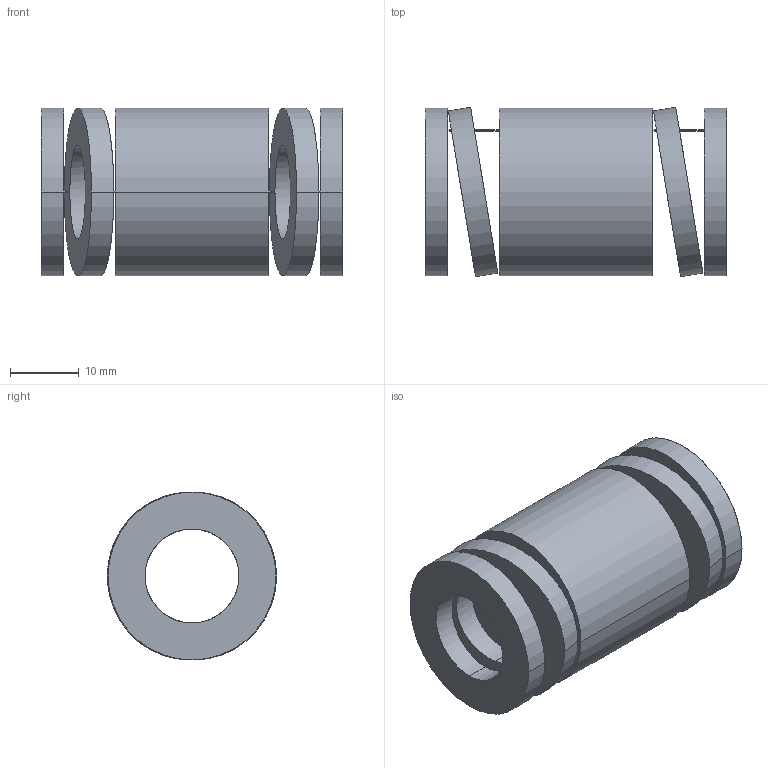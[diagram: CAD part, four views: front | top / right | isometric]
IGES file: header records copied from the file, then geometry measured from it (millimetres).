
Start section: START RECORD GO HERE.
Global section: file name: 392-B25-044.igs; native system: DASSAULT SYSTEMES CATIA V5 R20 - www.3ds.com; preprocessor: CATIA Version 5 Release 20 ; author: Utente; organization: NB04-ASUS; date: 20210813.095027; units: millimetre
Bounding box: 44 x 24.71 x 24.5 mm (x, y, z)
Surface area: 7518.2 mm2 (no closed solid volume)
Topology: 0 solids, 0 shells, 38 faces, 184 edges, 184 vertices
Faces by surface type: revolution 28, plane 10
